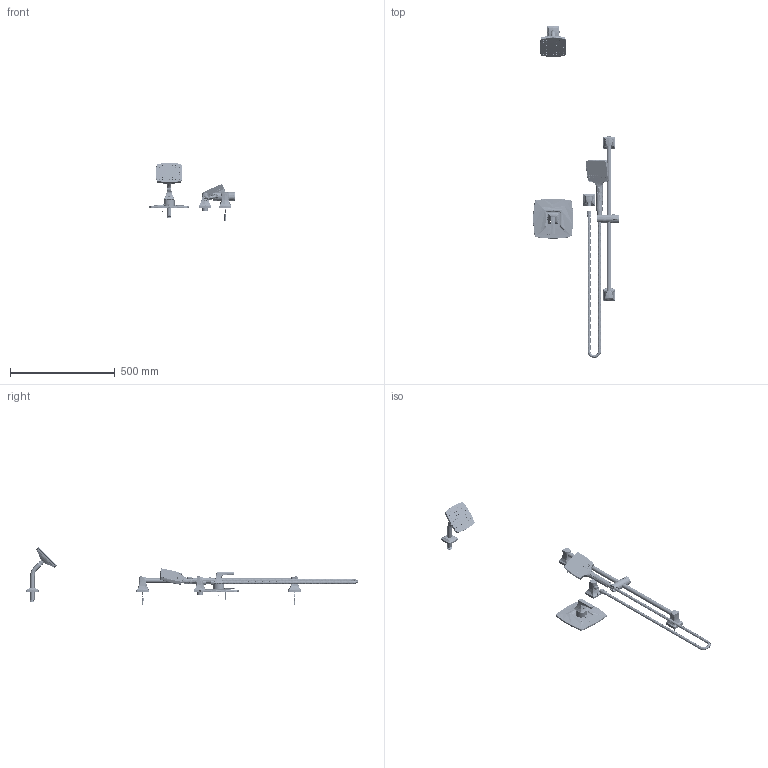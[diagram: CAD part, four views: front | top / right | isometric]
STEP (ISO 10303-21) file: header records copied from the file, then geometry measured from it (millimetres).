
FILE_DESCRIPTION (( 'STEP AP214' ), '1' );
FILE_NAME ('S5698TRM.STEP', '2025-01-02T07:28:58', ( '' ), ( '' ), 'SwSTEP 2.0', 'SolidWorks 2023', '' );
FILE_SCHEMA (( 'AUTOMOTIVE_DESIGN' ));
Products named in the file (1): S5698TRM
Bounding box: 408.45 x 1584.14 x 275.54 mm (x, y, z)
Surface area: 515340.5 mm2 (no closed solid volume)
Topology: 0 solids, 287 shells, 1546 faces, 6451 edges, 5065 vertices
Faces by surface type: bspline 630, plane 349, cylinder 295, cone 207, torus 42, sphere 23
Entity records: 377310 total; most frequent: CARTESIAN_POINT 333751, ORIENTED_EDGE 8797, EDGE_CURVE 6441, DIRECTION 6225, VERTEX_POINT 5063, B_SPLINE_CURVE_WITH_KNOTS 3255, AXIS2_PLACEMENT_3D 2383, EDGE_LOOP 2002
